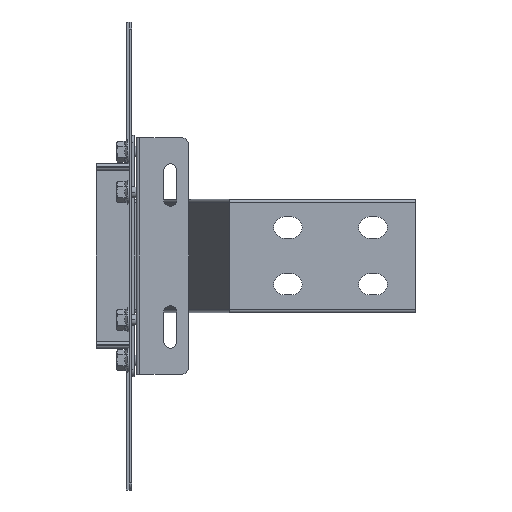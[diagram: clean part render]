
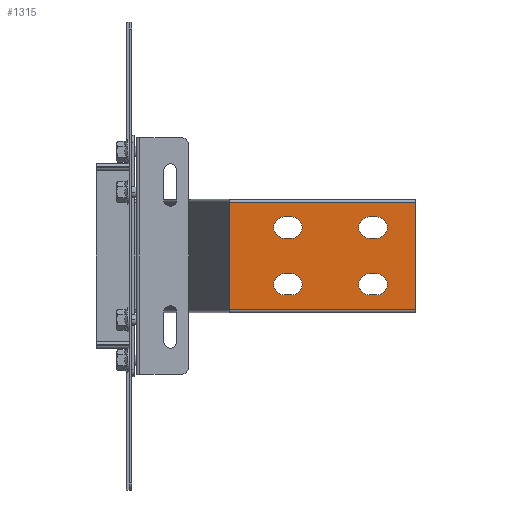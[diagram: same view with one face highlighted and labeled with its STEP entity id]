
A CAD part, front view. The second image highlights one B-rep face of the part: STEP entity #1315.
In plain terms, the highlighted planar face has unit normal (0, -1, 0).
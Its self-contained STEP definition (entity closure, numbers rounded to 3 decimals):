
#1143=AXIS2_PLACEMENT_3D('Plane Axis2P3D',#1140,#1141,#1142) ;
#1181=AXIS2_PLACEMENT_3D('Circle Axis2P3D',#1179,#1180,$) ;
#1197=AXIS2_PLACEMENT_3D('Circle Axis2P3D',#1195,#1196,$) ;
#1215=AXIS2_PLACEMENT_3D('Circle Axis2P3D',#1213,#1214,$) ;
#1231=AXIS2_PLACEMENT_3D('Circle Axis2P3D',#1229,#1230,$) ;
#1249=AXIS2_PLACEMENT_3D('Circle Axis2P3D',#1247,#1248,$) ;
#1265=AXIS2_PLACEMENT_3D('Circle Axis2P3D',#1263,#1264,$) ;
#1292=AXIS2_PLACEMENT_3D('Circle Axis2P3D',#1290,#1291,$) ;
#1306=AXIS2_PLACEMENT_3D('Circle Axis2P3D',#1304,#1305,$) ;
#1140=CARTESIAN_POINT('Axis2P3D Location',(200.,-152.2,-37.8)) ;
#1145=CARTESIAN_POINT('Line Origine',(134.27,-152.2,-37.8)) ;
#1149=CARTESIAN_POINT('Vertex',(200.,-152.2,-37.8)) ;
#1151=CARTESIAN_POINT('Vertex',(68.54,-152.2,-37.8)) ;
#1154=CARTESIAN_POINT('Line Origine',(200.,-152.2,0.)) ;
#1158=CARTESIAN_POINT('Vertex',(200.,-152.2,37.8)) ;
#1161=CARTESIAN_POINT('Line Origine',(134.27,-152.2,37.8)) ;
#1165=CARTESIAN_POINT('Vertex',(68.54,-152.2,37.8)) ;
#1168=CARTESIAN_POINT('Line Origine',(68.54,-152.2,0.)) ;
#1179=CARTESIAN_POINT('Axis2P3D Location',(112.5,-152.2,20.)) ;
#1183=CARTESIAN_POINT('Vertex',(112.5,-152.2,12.5)) ;
#1185=CARTESIAN_POINT('Vertex',(112.5,-152.2,27.5)) ;
#1188=CARTESIAN_POINT('Line Origine',(110.,-152.2,12.5)) ;
#1192=CARTESIAN_POINT('Vertex',(107.5,-152.2,12.5)) ;
#1195=CARTESIAN_POINT('Axis2P3D Location',(107.5,-152.2,20.)) ;
#1199=CARTESIAN_POINT('Vertex',(107.5,-152.2,27.5)) ;
#1202=CARTESIAN_POINT('Line Origine',(110.,-152.2,27.5)) ;
#1213=CARTESIAN_POINT('Axis2P3D Location',(172.5,-152.2,20.)) ;
#1217=CARTESIAN_POINT('Vertex',(172.5,-152.2,12.5)) ;
#1219=CARTESIAN_POINT('Vertex',(172.5,-152.2,27.5)) ;
#1222=CARTESIAN_POINT('Line Origine',(170.,-152.2,12.5)) ;
#1226=CARTESIAN_POINT('Vertex',(167.5,-152.2,12.5)) ;
#1229=CARTESIAN_POINT('Axis2P3D Location',(167.5,-152.2,20.)) ;
#1233=CARTESIAN_POINT('Vertex',(167.5,-152.2,27.5)) ;
#1236=CARTESIAN_POINT('Line Origine',(170.,-152.2,27.5)) ;
#1247=CARTESIAN_POINT('Axis2P3D Location',(107.5,-152.2,-20.)) ;
#1251=CARTESIAN_POINT('Vertex',(107.5,-152.2,-12.5)) ;
#1253=CARTESIAN_POINT('Vertex',(107.5,-152.2,-27.5)) ;
#1256=CARTESIAN_POINT('Line Origine',(110.,-152.2,-12.5)) ;
#1260=CARTESIAN_POINT('Vertex',(112.5,-152.2,-12.5)) ;
#1263=CARTESIAN_POINT('Axis2P3D Location',(112.5,-152.2,-20.)) ;
#1267=CARTESIAN_POINT('Vertex',(112.5,-152.2,-27.5)) ;
#1270=CARTESIAN_POINT('Line Origine',(110.,-152.2,-27.5)) ;
#1281=CARTESIAN_POINT('Line Origine',(170.,-152.2,-12.5)) ;
#1285=CARTESIAN_POINT('Vertex',(172.5,-152.2,-12.5)) ;
#1287=CARTESIAN_POINT('Vertex',(167.5,-152.2,-12.5)) ;
#1290=CARTESIAN_POINT('Axis2P3D Location',(172.5,-152.2,-20.)) ;
#1294=CARTESIAN_POINT('Vertex',(172.5,-152.2,-27.5)) ;
#1297=CARTESIAN_POINT('Line Origine',(170.,-152.2,-27.5)) ;
#1301=CARTESIAN_POINT('Vertex',(167.5,-152.2,-27.5)) ;
#1304=CARTESIAN_POINT('Axis2P3D Location',(167.5,-152.2,-20.)) ;
#1141=DIRECTION('Axis2P3D Direction',(0.,-1.,0.)) ;
#1142=DIRECTION('Axis2P3D XDirection',(0.,0.,1.)) ;
#1146=DIRECTION('Vector Direction',(-1.,0.,0.)) ;
#1155=DIRECTION('Vector Direction',(0.,0.,1.)) ;
#1162=DIRECTION('Vector Direction',(-1.,0.,0.)) ;
#1169=DIRECTION('Vector Direction',(0.,0.,1.)) ;
#1180=DIRECTION('Axis2P3D Direction',(0.,-1.,0.)) ;
#1189=DIRECTION('Vector Direction',(-1.,0.,0.)) ;
#1196=DIRECTION('Axis2P3D Direction',(0.,-1.,0.)) ;
#1203=DIRECTION('Vector Direction',(1.,0.,0.)) ;
#1214=DIRECTION('Axis2P3D Direction',(0.,-1.,0.)) ;
#1223=DIRECTION('Vector Direction',(1.,0.,0.)) ;
#1230=DIRECTION('Axis2P3D Direction',(0.,-1.,0.)) ;
#1237=DIRECTION('Vector Direction',(-1.,0.,0.)) ;
#1248=DIRECTION('Axis2P3D Direction',(0.,-1.,0.)) ;
#1257=DIRECTION('Vector Direction',(-1.,0.,0.)) ;
#1264=DIRECTION('Axis2P3D Direction',(0.,-1.,0.)) ;
#1271=DIRECTION('Vector Direction',(1.,0.,0.)) ;
#1282=DIRECTION('Vector Direction',(1.,0.,0.)) ;
#1291=DIRECTION('Axis2P3D Direction',(0.,-1.,0.)) ;
#1298=DIRECTION('Vector Direction',(-1.,0.,0.)) ;
#1305=DIRECTION('Axis2P3D Direction',(0.,-1.,0.)) ;
#1147=VECTOR('Line Direction',#1146,1.) ;
#1156=VECTOR('Line Direction',#1155,1.) ;
#1163=VECTOR('Line Direction',#1162,1.) ;
#1170=VECTOR('Line Direction',#1169,1.) ;
#1190=VECTOR('Line Direction',#1189,1.) ;
#1204=VECTOR('Line Direction',#1203,1.) ;
#1224=VECTOR('Line Direction',#1223,1.) ;
#1238=VECTOR('Line Direction',#1237,1.) ;
#1258=VECTOR('Line Direction',#1257,1.) ;
#1272=VECTOR('Line Direction',#1271,1.) ;
#1283=VECTOR('Line Direction',#1282,1.) ;
#1299=VECTOR('Line Direction',#1298,1.) ;
#1174=ORIENTED_EDGE('',*,*,#1153,.F.) ;
#1175=ORIENTED_EDGE('',*,*,#1160,.F.) ;
#1176=ORIENTED_EDGE('',*,*,#1167,.T.) ;
#1177=ORIENTED_EDGE('',*,*,#1172,.F.) ;
#1208=ORIENTED_EDGE('',*,*,#1187,.F.) ;
#1209=ORIENTED_EDGE('',*,*,#1194,.F.) ;
#1210=ORIENTED_EDGE('',*,*,#1201,.F.) ;
#1211=ORIENTED_EDGE('',*,*,#1206,.F.) ;
#1242=ORIENTED_EDGE('',*,*,#1221,.F.) ;
#1243=ORIENTED_EDGE('',*,*,#1228,.F.) ;
#1244=ORIENTED_EDGE('',*,*,#1235,.F.) ;
#1245=ORIENTED_EDGE('',*,*,#1240,.F.) ;
#1276=ORIENTED_EDGE('',*,*,#1255,.F.) ;
#1277=ORIENTED_EDGE('',*,*,#1262,.F.) ;
#1278=ORIENTED_EDGE('',*,*,#1269,.F.) ;
#1279=ORIENTED_EDGE('',*,*,#1274,.F.) ;
#1310=ORIENTED_EDGE('',*,*,#1289,.F.) ;
#1311=ORIENTED_EDGE('',*,*,#1296,.F.) ;
#1312=ORIENTED_EDGE('',*,*,#1303,.F.) ;
#1313=ORIENTED_EDGE('',*,*,#1308,.F.) ;
#1212=FACE_BOUND('',#1207,.T.) ;
#1246=FACE_BOUND('',#1241,.T.) ;
#1280=FACE_BOUND('',#1275,.T.) ;
#1314=FACE_BOUND('',#1309,.T.) ;
#1315=ADVANCED_FACE('N',(#1178,#1212,#1246,#1280,#1314),#1144,.T.) ;
#1182=CIRCLE('generated circle',#1181,7.5) ;
#1198=CIRCLE('generated circle',#1197,7.5) ;
#1216=CIRCLE('generated circle',#1215,7.5) ;
#1232=CIRCLE('generated circle',#1231,7.5) ;
#1250=CIRCLE('generated circle',#1249,7.5) ;
#1266=CIRCLE('generated circle',#1265,7.5) ;
#1293=CIRCLE('generated circle',#1292,7.5) ;
#1307=CIRCLE('generated circle',#1306,7.5) ;
#1153=EDGE_CURVE('',#1150,#1152,#1148,.T.) ;
#1160=EDGE_CURVE('',#1159,#1150,#1157,.F.) ;
#1167=EDGE_CURVE('',#1159,#1166,#1164,.T.) ;
#1172=EDGE_CURVE('',#1152,#1166,#1171,.T.) ;
#1187=EDGE_CURVE('',#1184,#1186,#1182,.T.) ;
#1194=EDGE_CURVE('',#1193,#1184,#1191,.F.) ;
#1201=EDGE_CURVE('',#1200,#1193,#1198,.T.) ;
#1206=EDGE_CURVE('',#1186,#1200,#1205,.F.) ;
#1221=EDGE_CURVE('',#1218,#1220,#1216,.T.) ;
#1228=EDGE_CURVE('',#1227,#1218,#1225,.T.) ;
#1235=EDGE_CURVE('',#1234,#1227,#1232,.T.) ;
#1240=EDGE_CURVE('',#1220,#1234,#1239,.T.) ;
#1255=EDGE_CURVE('',#1252,#1254,#1250,.T.) ;
#1262=EDGE_CURVE('',#1261,#1252,#1259,.T.) ;
#1269=EDGE_CURVE('',#1268,#1261,#1266,.T.) ;
#1274=EDGE_CURVE('',#1254,#1268,#1273,.T.) ;
#1289=EDGE_CURVE('',#1286,#1288,#1284,.F.) ;
#1296=EDGE_CURVE('',#1295,#1286,#1293,.T.) ;
#1303=EDGE_CURVE('',#1302,#1295,#1300,.F.) ;
#1308=EDGE_CURVE('',#1288,#1302,#1307,.T.) ;
#1173=EDGE_LOOP('',(#1174,#1175,#1176,#1177)) ;
#1207=EDGE_LOOP('',(#1208,#1209,#1210,#1211)) ;
#1241=EDGE_LOOP('',(#1242,#1243,#1244,#1245)) ;
#1275=EDGE_LOOP('',(#1276,#1277,#1278,#1279)) ;
#1309=EDGE_LOOP('',(#1310,#1311,#1312,#1313)) ;
#1178=FACE_OUTER_BOUND('',#1173,.T.) ;
#1148=LINE('Line',#1145,#1147) ;
#1157=LINE('Line',#1154,#1156) ;
#1164=LINE('Line',#1161,#1163) ;
#1171=LINE('Line',#1168,#1170) ;
#1191=LINE('Line',#1188,#1190) ;
#1205=LINE('Line',#1202,#1204) ;
#1225=LINE('Line',#1222,#1224) ;
#1239=LINE('Line',#1236,#1238) ;
#1259=LINE('Line',#1256,#1258) ;
#1273=LINE('Line',#1270,#1272) ;
#1284=LINE('Line',#1281,#1283) ;
#1300=LINE('Line',#1297,#1299) ;
#1144=PLANE('',#1143) ;
#1150=VERTEX_POINT('',#1149) ;
#1152=VERTEX_POINT('',#1151) ;
#1159=VERTEX_POINT('',#1158) ;
#1166=VERTEX_POINT('',#1165) ;
#1184=VERTEX_POINT('',#1183) ;
#1186=VERTEX_POINT('',#1185) ;
#1193=VERTEX_POINT('',#1192) ;
#1200=VERTEX_POINT('',#1199) ;
#1218=VERTEX_POINT('',#1217) ;
#1220=VERTEX_POINT('',#1219) ;
#1227=VERTEX_POINT('',#1226) ;
#1234=VERTEX_POINT('',#1233) ;
#1252=VERTEX_POINT('',#1251) ;
#1254=VERTEX_POINT('',#1253) ;
#1261=VERTEX_POINT('',#1260) ;
#1268=VERTEX_POINT('',#1267) ;
#1286=VERTEX_POINT('',#1285) ;
#1288=VERTEX_POINT('',#1287) ;
#1295=VERTEX_POINT('',#1294) ;
#1302=VERTEX_POINT('',#1301) ;
